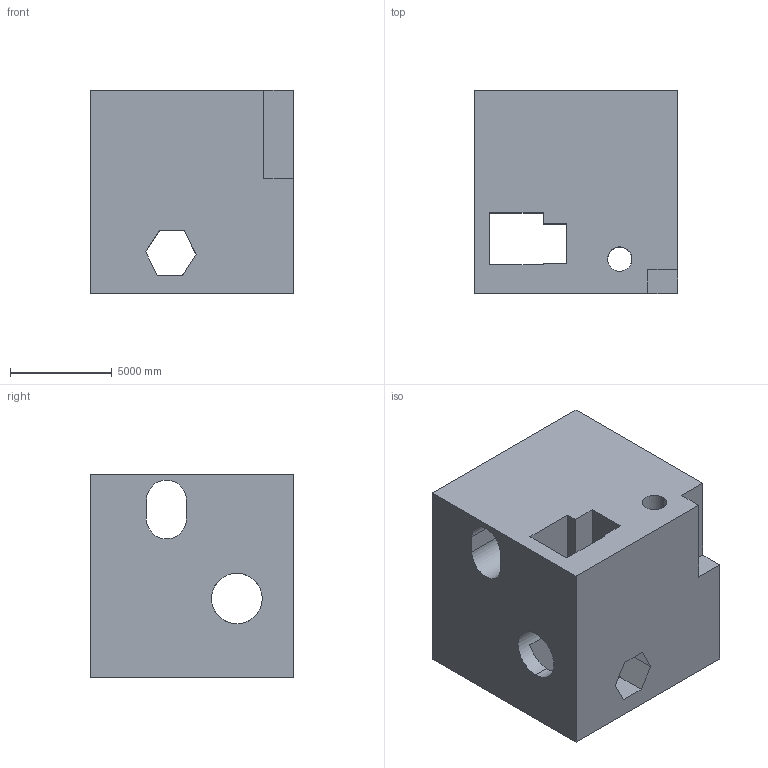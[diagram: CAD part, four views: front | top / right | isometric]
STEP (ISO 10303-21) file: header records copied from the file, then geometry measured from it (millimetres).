
FILE_DESCRIPTION (( 'STEP AP203' ), '1' );
FILE_NAME ('167.STEP', '2022-09-06T15:19:06', ( 'user' ), ( '' ), 'SwSTEP 2.0', 'SolidWorks 2021', '' );
FILE_SCHEMA (( 'CONFIG_CONTROL_DESIGN' ));
Length unit declared in the file: centimetre
Products named in the file (1): 167
Bounding box: 10000 x 10000 x 10000 mm (x, y, z)
Volume: 778449009122.1 mm3; surface area: 880152420.3 mm2
Topology: 1 solids, 1 shells, 45 faces, 144 edges, 96 vertices
Faces by surface type: plane 36, cylinder 9
Entity records: 2042 total; most frequent: CARTESIAN_POINT 657, ORIENTED_EDGE 288, DIRECTION 250, EDGE_CURVE 144, LINE 116, VECTOR 116, VERTEX_POINT 96, AXIS2_PLACEMENT_3D 67
